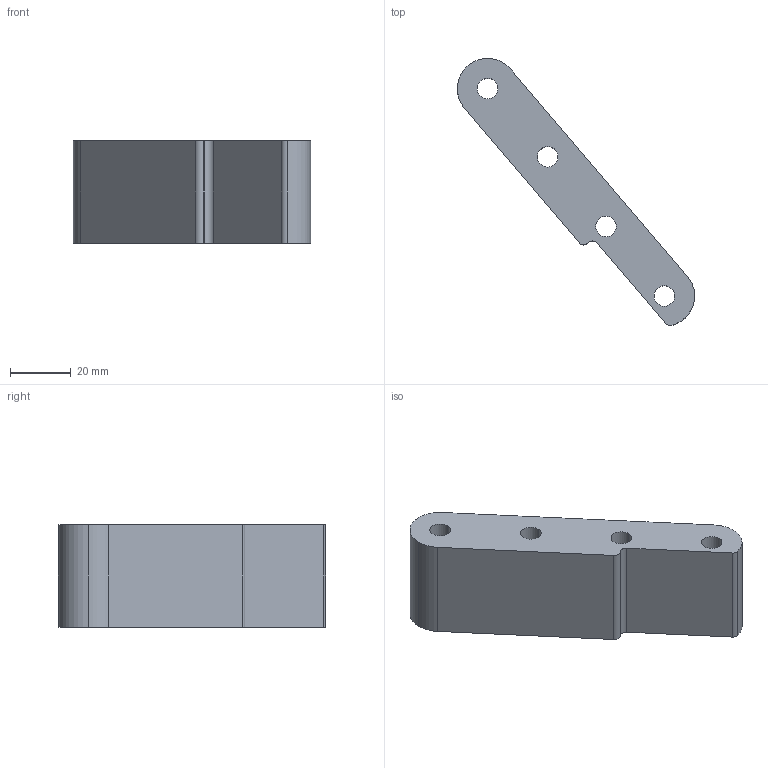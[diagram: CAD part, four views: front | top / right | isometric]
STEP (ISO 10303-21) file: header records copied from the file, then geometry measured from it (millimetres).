
FILE_DESCRIPTION (( 'STEP AP203' ), '1' );
FILE_NAME ('Mirror陔湮虯湖荂璃1.STEP', '2025-05-01T07:31:00', ( '' ), ( '' ), 'SwSTEP 2.0', 'SolidWorks 2024', '' );
FILE_SCHEMA (( 'CONFIG_CONTROL_DESIGN' ));
Length unit declared in the file: millimetre
Products named in the file (1): Mirror新大腿打印件1
Bounding box: 78.37 x 88.23 x 34 mm (x, y, z)
Volume: 61495.1 mm3; surface area: 14813.8 mm2
Topology: 1 solids, 1 shells, 20 faces, 54 edges, 36 vertices
Faces by surface type: cylinder 14, plane 6
Entity records: 739 total; most frequent: DIRECTION 124, CARTESIAN_POINT 111, ORIENTED_EDGE 108, EDGE_CURVE 54, AXIS2_PLACEMENT_3D 49, VERTEX_POINT 36, EDGE_LOOP 28, CIRCLE 28
